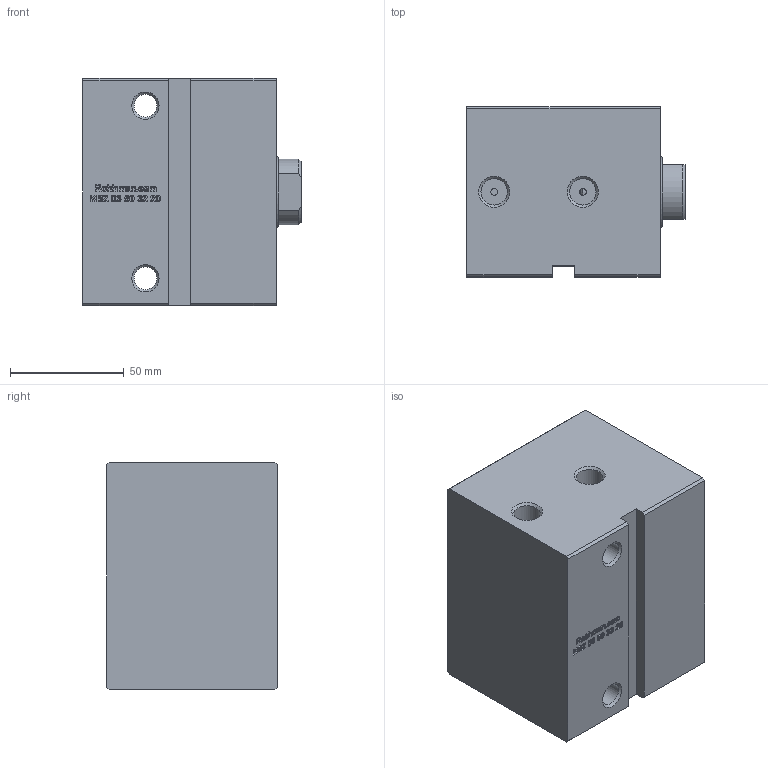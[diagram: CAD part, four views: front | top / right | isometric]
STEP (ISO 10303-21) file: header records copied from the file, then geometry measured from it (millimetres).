
FILE_DESCRIPTION(/* description */ (''),/* implementation_level */ '2;1');
FILE_NAME(/* name */ 'KBZ_03_50_32_20_WEB.step',/* time_stamp */ '2023-08-25T16:51:28+03:00',/* author */ (''),/* organization */ (''),/* preprocessor_version */ 'ST-DEVELOPER v20',/* originating_system */ 'Autodesk Translation Framework v12.9.0.99',/* authorisation */ '');
FILE_SCHEMA (('AUTOMOTIVE_DESIGN { 1 0 10303 214 3 1 1 }'));
Length unit declared in the file: millimetre
Products named in the file (7): KBZ_03_50_32_20_MONTAJ; KAPAK; KAPAK_1; Ø32 MİL; MİL; GÖVDE; GÖVDE_1
Assembly tree (6 placements, depth 3):
  KBZ_03_50_32_20_MONTAJ
    KAPAK
      KAPAK_1
    Ø32 MİL
      MİL
    GÖVDE
      GÖVDE_1
Bounding box: 96 x 75 x 100 mm (x, y, z)
Volume: 575027.3 mm3; surface area: 81814.3 mm2
Topology: 3 solids, 3 shells, 570 faces, 1557 edges, 1033 vertices
Faces by surface type: bspline 350, plane 184, cone 18, cylinder 18
Full cylindrical faces by diameter (mm): 3 x2, 5 x2, 10 x2, 11.668 x2, 17.519 x1, 32 x1, 32.5 x1, 50 x1, 55 x2, 60 x2
Entity records: 21400 total; most frequent: CARTESIAN_POINT 9171, ORIENTED_EDGE 3114, EDGE_CURVE 1557, DIRECTION 1372, VERTEX_POINT 1033, LINE 794, VECTOR 794, B_SPLINE_CURVE_WITH_KNOTS 703
